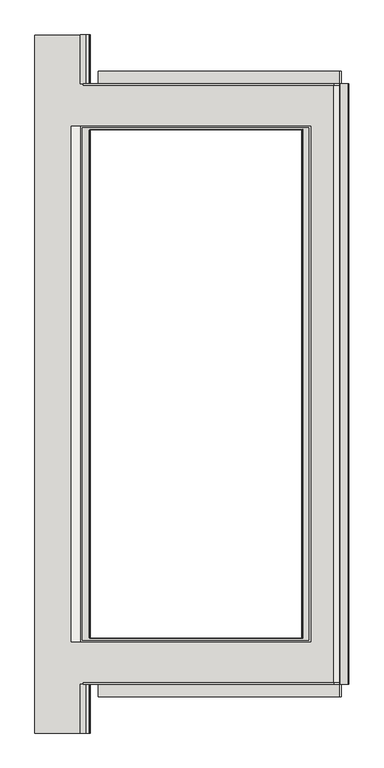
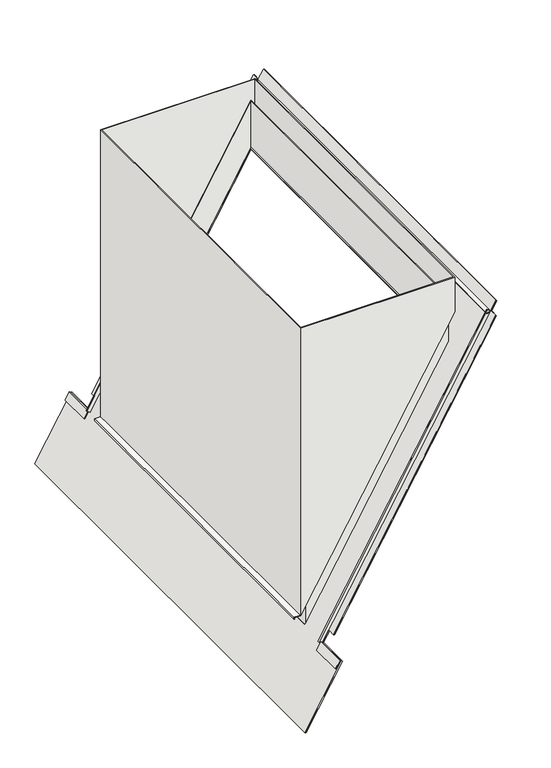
"""IFC4 building model written with IfcOpenShell, lengths in millimetres: covering geometry, MG_BPL_Delta Discovery Air_mountingbox-CO_M&G : mountingbox DDA-XL."""

from ifc_helpers import new_model, si_unit, frame, origin, place, context, project, spatial, polyline, outline, extrude, faceted_brep, source, transform, mapped, element, save


def covering_b17e486a(model_context):
    return source(origin(), model_context, "Body", "SolidModel", [
        extrude(outline(polyline([(0.0, 0.0), (0.0, -350.0), (-157.5, -350.0), (-157.5, -410.0), (-117.5, -410.0), (-117.5, -1970.0), (-157.5, -1970.0), (-157.5, -2020.0), (-2097.5, -2020.0), (-2097.5, -1970.0), (-2137.5, -1970.0), (-2137.5, -410.0), (-2097.5, -410.0), (-2097.5, -350.0), (-2255.0, -350.0), (-2255.0, 0.0), (0.0, 0.0)]), holes=[polyline([(-1947.5, -350.0), (-1947.5, -1720.0), (-307.5, -1720.0), (-307.5, -350.0), (-1947.5, -350.0)])]), frame((-175.0, 1127.5, -303.1088913), z_axis=(-0.8660254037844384, 0.0, 0.5000000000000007), x_axis=(0.0, 1.0, 0.0)), (0.0, 0.0, 1.0), 5.0),
        faceted_brep([(0.0, 820.0, 244.0), (0.0, 820.0, 0.0), (684.0, 820.0, 1184.7227524), (684.0, 820.0, 1428.7227524), (0.0, -820.0, 244.0), (0.0, -820.0, 0.0), (684.0, -820.0, 1428.7227524), (684.0, -820.0, 1184.7227524), (685.9866683, 822.0, 1432.1637627), (685.9866683, 822.0, 1188.1637627), (-2.0066659, 822.0, -3.4756472), (-2.0066659, 822.0, 240.5243528), (-2.0066659, -822.0, -3.4756472), (-2.0066659, -822.0, 240.5243528), (685.9866683, -822.0, 1188.1637627), (685.9866683, -822.0, 1432.1637627)], [[[0, 1, 2, 3]], [[1, 0, 4, 5]], [[5, 4, 6, 7]], [[7, 6, 3, 2]], [[8, 9, 10, 11]], [[11, 10, 12, 13]], [[13, 12, 14, 15]], [[9, 8, 15, 14]], [[10, 9, 14, 12], [2, 1, 5, 7]], [[8, 11, 13, 15], [0, 3, 6, 4]]]),
        faceted_brep([(710.9866683, -833.0, 1526.4650329), (710.9866683, -833.0, 1351.4650329), (710.9866683, 833.0, 1351.4650329), (710.9866683, 833.0, 1526.4650329), (-32.0066659, 833.0, 64.5628285), (-32.0066659, 833.0, 1526.4650329), (-32.0066659, -833.0, 64.5628285), (-32.0066659, -833.0, 1526.4650329), (-27.0066659, -828.0, 1526.4650329), (-27.0066659, -828.0, 73.2230826), (-27.0066659, 828.0, 73.2230826), (-27.0066659, 828.0, 1526.4650329), (705.9866683, 828.0, 1342.8047789), (705.9866683, 828.0, 1526.4650329), (705.9866683, -828.0, 1342.8047789), (705.9866683, -828.0, 1526.4650329)], [[[0, 1, 2, 3]], [[3, 2, 4, 5]], [[5, 4, 6, 7]], [[1, 0, 7, 6]], [[8, 9, 10, 11]], [[11, 10, 12, 13]], [[13, 12, 14, 15]], [[9, 8, 15, 14]], [[2, 1, 6, 4], [10, 9, 14, 12]], [[0, 3, 5, 7], [8, 11, 13, 15]]]),
        extrude(outline(polyline([(7.5, -12.9903811), (-27.1410162, -32.9903811), (-28.6410162, -30.3923048), (3.4019238, -11.8923048), (-0.0980762, -5.830127), (2.5, -4.330127), (7.5, -12.9903811)])), frame((0.0, -1127.5, 0.0), z_axis=(0.0, 1.0, 0.0), x_axis=(0.0, 0.0, 1.0)), (0.0, 0.0, 1.0), 157.5),
        extrude(outline(polyline([(7.5, -12.9903811), (-27.1410162, -32.9903811), (-28.6410162, -30.3923048), (3.4019238, -11.8923048), (-0.0980762, -5.830127), (2.5, -4.330127), (7.5, -12.9903811)])), frame((0.0, 970.0, 0.0), z_axis=(0.0, 1.0, 0.0), x_axis=(0.0, 0.0, 1.0)), (0.0, 0.0, 1.0), 157.5),
        extrude(outline(polyline([(65.5628285, -62.0066659), (55.5628285, -62.0066659), (55.5628285, -61.0066659), (64.5628285, -61.0066659), (64.5628285, -32.0066659), (65.5628285, -32.0066659), (65.5628285, -62.0066659)])), frame((0.0, -833.0, 0.0), z_axis=(0.0, 1.0, 0.0), x_axis=(0.0, 0.0, 1.0)), (0.0, 0.0, 1.0), 1666.0),
        extrude(outline(polyline([(0.0, -20.0), (0.0, 0.0), (1940.0, 0.0), (1940.0, -20.0), (0.0, -20.0)])), frame((787.6454517, -970.0, 1395.4551441), z_axis=(-0.25881904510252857, 0.0, 0.9659258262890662), x_axis=(0.0, 1.0, 0.0)), (0.0, 0.0, 1.0), 5.0),
        extrude(outline(polyline([(-40.0, 20.0), (-40.0, 0.0), (-45.0, 0.0), (-45.0, 20.0), (-40.0, 20.0)])), frame((-5.830127, 1010.0, -0.0980762), z_axis=(0.5000000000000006, 0.0, 0.8660254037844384), x_axis=(0.0, 1.0, 0.0)), (0.0, 0.0, 1.0), 1623.0),
        extrude(outline(polyline([(-40.0, -20.0), (-45.0, -20.0), (-45.0, 0.0), (-40.0, 0.0), (-40.0, -20.0)])), frame((-5.830127, -1010.0, -0.0980762), z_axis=(0.5000000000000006, 0.0, 0.8660254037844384), x_axis=(0.0, -1.0, 0.0)), (0.0, 0.0, 1.0), 1623.0),
    ])


if __name__ == "__main__":
    model = new_model("IFC4")
    model_context = context("Model", 3, world=origin())
    ifc_project = project(units=[si_unit("LENGTHUNIT", "METRE", prefix="MILLI")], contexts=[model_context])
    site = spatial("IfcSite", under=ifc_project)
    building = spatial("IfcBuilding", under=site)
    placement = place(None, origin())
    covering_shape = covering_b17e486a(model_context)
    element("IfcCovering", 1, ObjectType="MG_BPL_Delta Discovery Air_mountingbox-CO_M&G : mountingbox DDA-XL", at=placement, inside=building, context=model_context, shape_type="MappedRepresentation", body=[
        mapped(covering_shape, transform((0.0, 0.0, 0.0), x_axis=(1.0, 0.0, 0.0), y_axis=(0.0, 1.0, 0.0), z_axis=(0.0, 0.0, 1.0))),
    ])
    save(model, "model.ifc")
